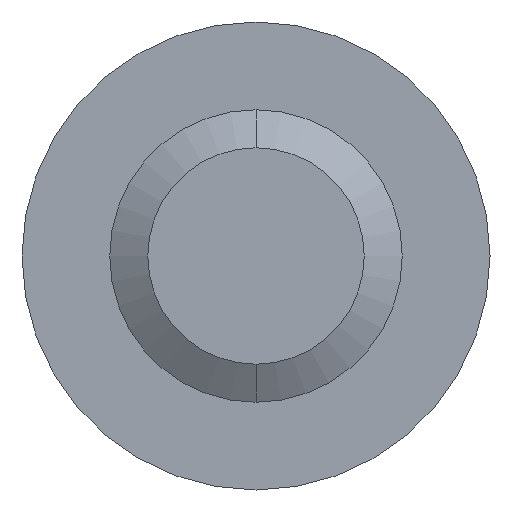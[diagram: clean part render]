
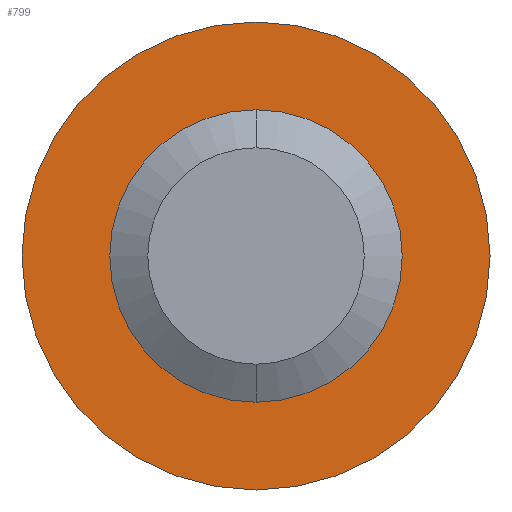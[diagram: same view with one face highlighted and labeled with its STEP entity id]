
A CAD part, front view. The second image highlights one B-rep face of the part: STEP entity #799.
In plain terms, the highlighted planar face has unit normal (0, -1, 0).
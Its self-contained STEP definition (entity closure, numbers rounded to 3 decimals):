
#31 = AXIS2_PLACEMENT_3D ( 'NONE', #289, #1330, #65 ) ;
#47 = FACE_BOUND ( 'NONE', #1145, .T. ) ;
#65 = DIRECTION ( 'NONE',  ( 0., 0., 1. ) ) ;
#80 = CIRCLE ( 'NONE', #31, 5. ) ;
#161 = EDGE_CURVE ( 'NONE', #1062, #573, #80, .T. ) ;
#166 = DIRECTION ( 'NONE',  ( 0., 0., 1. ) ) ;
#176 = AXIS2_PLACEMENT_3D ( 'NONE', #439, #1352, #322 ) ;
#193 = CARTESIAN_POINT ( 'NONE',  ( 0., 10., 8. ) ) ;
#232 = DIRECTION ( 'NONE',  ( 0., 0., 1. ) ) ;
#289 = CARTESIAN_POINT ( 'NONE',  ( 0., 10., 0. ) ) ;
#304 = VERTEX_POINT ( 'NONE', #193 ) ;
#309 = EDGE_CURVE ( 'NONE', #1477, #304, #633, .T. ) ;
#322 = DIRECTION ( 'NONE',  ( 0., 0., 1. ) ) ;
#330 = CARTESIAN_POINT ( 'NONE',  ( 0., 10., 0. ) ) ;
#439 = CARTESIAN_POINT ( 'NONE',  ( 0., 10., 0. ) ) ;
#471 = EDGE_CURVE ( 'NONE', #304, #1477, #1094, .T. ) ;
#490 = AXIS2_PLACEMENT_3D ( 'NONE', #1339, #1097, #514 ) ;
#514 = DIRECTION ( 'NONE',  ( 0., 0., 1. ) ) ;
#519 = CIRCLE ( 'NONE', #1141, 5. ) ;
#573 = VERTEX_POINT ( 'NONE', #1135 ) ;
#633 = CIRCLE ( 'NONE', #176, 8. ) ;
#647 = CARTESIAN_POINT ( 'NONE',  ( 0., 10., -8. ) ) ;
#726 = DIRECTION ( 'NONE',  ( 0., 1., 0. ) ) ;
#799 = ADVANCED_FACE ( 'NONE', ( #1413, #47 ), #849, .F. ) ;
#808 = DIRECTION ( 'NONE',  ( 0., 1., 0. ) ) ;
#849 = PLANE ( 'NONE',  #1038 ) ;
#854 = ORIENTED_EDGE ( 'NONE', *, *, #309, .F. ) ;
#857 = CARTESIAN_POINT ( 'NONE',  ( 0., 10., 0. ) ) ;
#899 = ORIENTED_EDGE ( 'NONE', *, *, #161, .T. ) ;
#1038 = AXIS2_PLACEMENT_3D ( 'NONE', #857, #726, #166 ) ;
#1062 = VERTEX_POINT ( 'NONE', #1427 ) ;
#1094 = CIRCLE ( 'NONE', #490, 8. ) ;
#1097 = DIRECTION ( 'NONE',  ( 0., 1., 0. ) ) ;
#1135 = CARTESIAN_POINT ( 'NONE',  ( 0., 10., 5. ) ) ;
#1141 = AXIS2_PLACEMENT_3D ( 'NONE', #330, #808, #232 ) ;
#1145 = EDGE_LOOP ( 'NONE', ( #899, #1152 ) ) ;
#1152 = ORIENTED_EDGE ( 'NONE', *, *, #1251, .T. ) ;
#1232 = EDGE_LOOP ( 'NONE', ( #854, #1247 ) ) ;
#1247 = ORIENTED_EDGE ( 'NONE', *, *, #471, .F. ) ;
#1251 = EDGE_CURVE ( 'NONE', #573, #1062, #519, .T. ) ;
#1330 = DIRECTION ( 'NONE',  ( 0., 1., 0. ) ) ;
#1339 = CARTESIAN_POINT ( 'NONE',  ( 0., 10., 0. ) ) ;
#1352 = DIRECTION ( 'NONE',  ( 0., 1., 0. ) ) ;
#1413 = FACE_OUTER_BOUND ( 'NONE', #1232, .T. ) ;
#1427 = CARTESIAN_POINT ( 'NONE',  ( 0., 10., -5. ) ) ;
#1477 = VERTEX_POINT ( 'NONE', #647 ) ;
